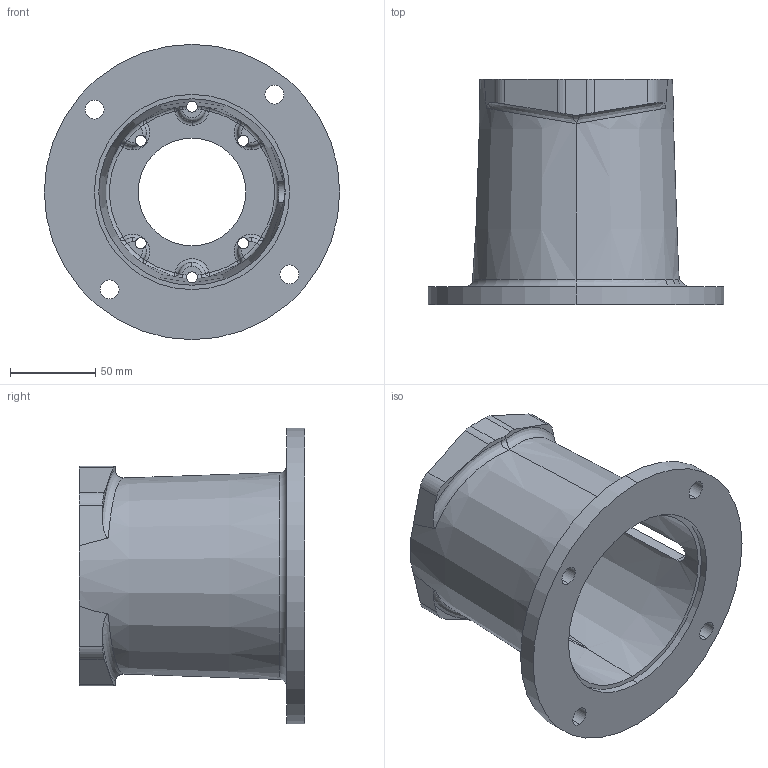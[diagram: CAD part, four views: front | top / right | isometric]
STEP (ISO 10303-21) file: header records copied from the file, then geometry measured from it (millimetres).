
FILE_DESCRIPTION (( 'STEP AP203' ), '1' );
FILE_NAME ('M0565263M.STEP', '2015-01-19T15:27:49', ( '' ), ( '' ), 'SwSTEP 2.0', 'SolidWorks 2014', '' );
FILE_SCHEMA (( 'CONFIG_CONTROL_DESIGN' ));
Length unit declared in the file: inch
Products named in the file (1): M0565263M
Bounding box: 172.97 x 131.95 x 172.97 mm (x, y, z)
Volume: 486049.5 mm3; surface area: 133965.8 mm2
Topology: 1 solids, 1 shells, 184 faces, 489 edges, 289 vertices
Faces by surface type: torus 51, cylinder 38, bspline 30, plane 27, sphere 24, cone 14
Entity records: 8074 total; most frequent: CARTESIAN_POINT 3632, ORIENTED_EDGE 950, DIRECTION 932, EDGE_CURVE 475, AXIS2_PLACEMENT_3D 428, VERTEX_POINT 289, CIRCLE 273, EDGE_LOOP 204
